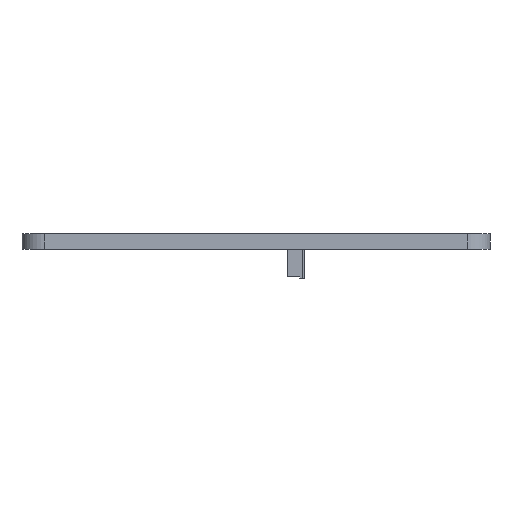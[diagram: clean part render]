
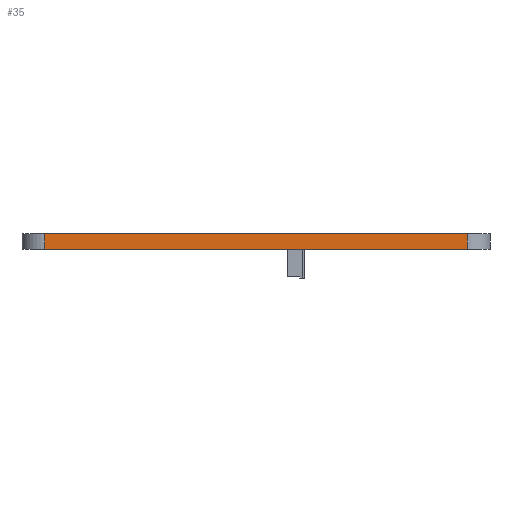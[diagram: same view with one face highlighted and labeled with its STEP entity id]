
A CAD part, left-side view. The second image highlights one B-rep face of the part: STEP entity #35.
In plain terms, the highlighted planar face has unit normal (-1, 0, 0).
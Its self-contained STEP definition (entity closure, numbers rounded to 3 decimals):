
#35 = ADVANCED_FACE('',(#36),#50,.F.);
#36 = FACE_BOUND('',#37,.F.);
#37 = EDGE_LOOP('',(#38,#73,#101,#129));
#38 = ORIENTED_EDGE('',*,*,#39,.F.);
#39 = EDGE_CURVE('',#40,#42,#44,.T.);
#40 = VERTEX_POINT('',#41);
#41 = CARTESIAN_POINT('',(-111.8,78.15,19.75));
#42 = VERTEX_POINT('',#43);
#43 = CARTESIAN_POINT('',(-111.8,187.15,19.75));
#44 = SURFACE_CURVE('',#45,(#49,#61),.PCURVE_S1.);
#45 = LINE('',#46,#47);
#46 = CARTESIAN_POINT('',(-111.8,72.35,19.75));
#47 = VECTOR('',#48,1.);
#48 = DIRECTION('',(0.,1.,0.));
#49 = PCURVE('',#50,#55);
#50 = PLANE('',#51);
#51 = AXIS2_PLACEMENT_3D('',#52,#53,#54);
#52 = CARTESIAN_POINT('',(-111.8,72.35,15.75));
#53 = DIRECTION('',(1.,0.,0.));
#54 = DIRECTION('',(0.,0.,1.));
#55 = DEFINITIONAL_REPRESENTATION('',(#56),#60);
#56 = LINE('',#57,#58);
#57 = CARTESIAN_POINT('',(4.,0.));
#58 = VECTOR('',#59,1.);
#59 = DIRECTION('',(0.,-1.));
#60 = ( GEOMETRIC_REPRESENTATION_CONTEXT(2) 
PARAMETRIC_REPRESENTATION_CONTEXT() REPRESENTATION_CONTEXT('2D SPACE',''
  ) );
#61 = PCURVE('',#62,#67);
#62 = PLANE('',#63);
#63 = AXIS2_PLACEMENT_3D('',#64,#65,#66);
#64 = CARTESIAN_POINT('',(-111.8,72.35,19.75));
#65 = DIRECTION('',(0.,0.,1.));
#66 = DIRECTION('',(1.,0.,0.));
#67 = DEFINITIONAL_REPRESENTATION('',(#68),#72);
#68 = LINE('',#69,#70);
#69 = CARTESIAN_POINT('',(0.,0.));
#70 = VECTOR('',#71,1.);
#71 = DIRECTION('',(0.,1.));
#72 = ( GEOMETRIC_REPRESENTATION_CONTEXT(2) 
PARAMETRIC_REPRESENTATION_CONTEXT() REPRESENTATION_CONTEXT('2D SPACE',''
  ) );
#73 = ORIENTED_EDGE('',*,*,#74,.F.);
#74 = EDGE_CURVE('',#75,#40,#77,.T.);
#75 = VERTEX_POINT('',#76);
#76 = CARTESIAN_POINT('',(-111.8,78.15,15.75));
#77 = SURFACE_CURVE('',#78,(#82,#89),.PCURVE_S1.);
#78 = LINE('',#79,#80);
#79 = CARTESIAN_POINT('',(-111.8,78.15,15.75));
#80 = VECTOR('',#81,1.);
#81 = DIRECTION('',(0.,0.,1.));
#82 = PCURVE('',#50,#83);
#83 = DEFINITIONAL_REPRESENTATION('',(#84),#88);
#84 = LINE('',#85,#86);
#85 = CARTESIAN_POINT('',(0.,-5.8));
#86 = VECTOR('',#87,1.);
#87 = DIRECTION('',(1.,0.));
#88 = ( GEOMETRIC_REPRESENTATION_CONTEXT(2) 
PARAMETRIC_REPRESENTATION_CONTEXT() REPRESENTATION_CONTEXT('2D SPACE',''
  ) );
#89 = PCURVE('',#90,#95);
#90 = CYLINDRICAL_SURFACE('',#91,5.8);
#91 = AXIS2_PLACEMENT_3D('',#92,#93,#94);
#92 = CARTESIAN_POINT('',(-106.,78.15,15.75));
#93 = DIRECTION('',(0.,0.,1.));
#94 = DIRECTION('',(-1.,-0.,0.));
#95 = DEFINITIONAL_REPRESENTATION('',(#96),#100);
#96 = LINE('',#97,#98);
#97 = CARTESIAN_POINT('',(0.,0.));
#98 = VECTOR('',#99,1.);
#99 = DIRECTION('',(0.,1.));
#100 = ( GEOMETRIC_REPRESENTATION_CONTEXT(2) 
PARAMETRIC_REPRESENTATION_CONTEXT() REPRESENTATION_CONTEXT('2D SPACE',''
  ) );
#101 = ORIENTED_EDGE('',*,*,#102,.T.);
#102 = EDGE_CURVE('',#75,#103,#105,.T.);
#103 = VERTEX_POINT('',#104);
#104 = CARTESIAN_POINT('',(-111.8,187.15,15.75));
#105 = SURFACE_CURVE('',#106,(#110,#117),.PCURVE_S1.);
#106 = LINE('',#107,#108);
#107 = CARTESIAN_POINT('',(-111.8,72.35,15.75));
#108 = VECTOR('',#109,1.);
#109 = DIRECTION('',(0.,1.,0.));
#110 = PCURVE('',#50,#111);
#111 = DEFINITIONAL_REPRESENTATION('',(#112),#116);
#112 = LINE('',#113,#114);
#113 = CARTESIAN_POINT('',(0.,0.));
#114 = VECTOR('',#115,1.);
#115 = DIRECTION('',(0.,-1.));
#116 = ( GEOMETRIC_REPRESENTATION_CONTEXT(2) 
PARAMETRIC_REPRESENTATION_CONTEXT() REPRESENTATION_CONTEXT('2D SPACE',''
  ) );
#117 = PCURVE('',#118,#123);
#118 = PLANE('',#119);
#119 = AXIS2_PLACEMENT_3D('',#120,#121,#122);
#120 = CARTESIAN_POINT('',(-111.8,72.35,15.75));
#121 = DIRECTION('',(0.,0.,1.));
#122 = DIRECTION('',(1.,0.,0.));
#123 = DEFINITIONAL_REPRESENTATION('',(#124),#128);
#124 = LINE('',#125,#126);
#125 = CARTESIAN_POINT('',(0.,0.));
#126 = VECTOR('',#127,1.);
#127 = DIRECTION('',(0.,1.));
#128 = ( GEOMETRIC_REPRESENTATION_CONTEXT(2) 
PARAMETRIC_REPRESENTATION_CONTEXT() REPRESENTATION_CONTEXT('2D SPACE',''
  ) );
#129 = ORIENTED_EDGE('',*,*,#130,.T.);
#130 = EDGE_CURVE('',#103,#42,#131,.T.);
#131 = SURFACE_CURVE('',#132,(#136,#143),.PCURVE_S1.);
#132 = LINE('',#133,#134);
#133 = CARTESIAN_POINT('',(-111.8,187.15,15.75));
#134 = VECTOR('',#135,1.);
#135 = DIRECTION('',(0.,0.,1.));
#136 = PCURVE('',#50,#137);
#137 = DEFINITIONAL_REPRESENTATION('',(#138),#142);
#138 = LINE('',#139,#140);
#139 = CARTESIAN_POINT('',(0.,-114.8));
#140 = VECTOR('',#141,1.);
#141 = DIRECTION('',(1.,0.));
#142 = ( GEOMETRIC_REPRESENTATION_CONTEXT(2) 
PARAMETRIC_REPRESENTATION_CONTEXT() REPRESENTATION_CONTEXT('2D SPACE',''
  ) );
#143 = PCURVE('',#144,#149);
#144 = CYLINDRICAL_SURFACE('',#145,5.8);
#145 = AXIS2_PLACEMENT_3D('',#146,#147,#148);
#146 = CARTESIAN_POINT('',(-106.,187.15,15.75));
#147 = DIRECTION('',(0.,0.,1.));
#148 = DIRECTION('',(-1.,-0.,0.));
#149 = DEFINITIONAL_REPRESENTATION('',(#150),#154);
#150 = LINE('',#151,#152);
#151 = CARTESIAN_POINT('',(-0.,0.));
#152 = VECTOR('',#153,1.);
#153 = DIRECTION('',(-0.,1.));
#154 = ( GEOMETRIC_REPRESENTATION_CONTEXT(2) 
PARAMETRIC_REPRESENTATION_CONTEXT() REPRESENTATION_CONTEXT('2D SPACE',''
  ) );
